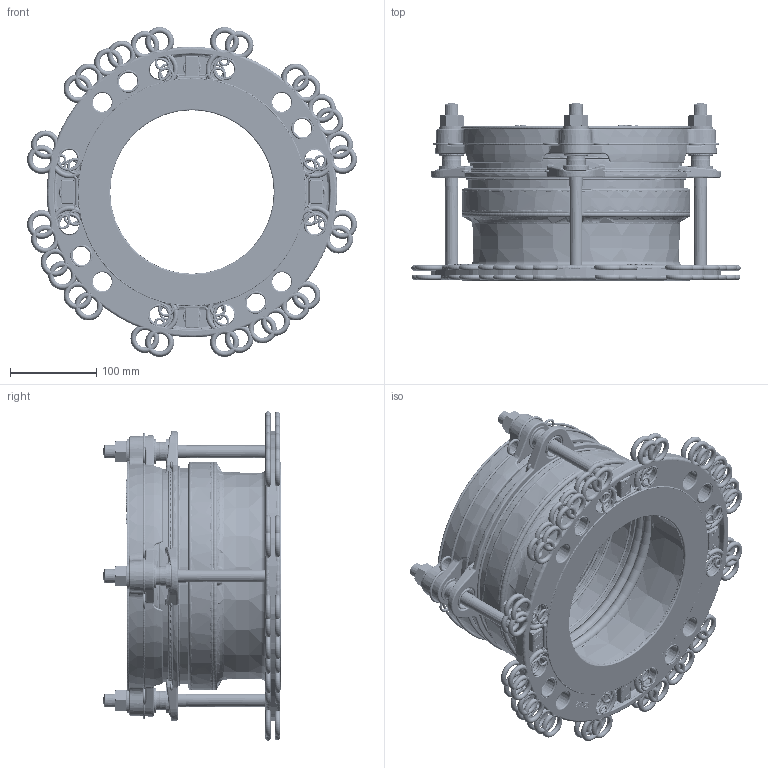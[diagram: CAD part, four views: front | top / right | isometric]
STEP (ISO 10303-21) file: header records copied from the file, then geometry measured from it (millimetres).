
FILE_DESCRIPTION((''),'2;1');
FILE_NAME('13383_10','2014-12-15T',('rburgess'),('Viking Johnson'),'PRO/ENGINEER BY PARAMETRIC TECHNOLOGY CORPORATION, 2006020','PRO/ENGINEER BY PARAMETRIC TECHNOLOGY CORPORATION, 2006020','');
FILE_SCHEMA(('CONFIG_CONTROL_DESIGN'));
Products named in the file (1): 13383_10
Bounding box: 383.36 x 206.63 x 383.36 mm (x, y, z)
Surface area: 2078041 mm2 (no closed solid volume)
Topology: 0 solids, 0 shells, 5153 faces, 27568 edges, 27072 vertices
Faces by surface type: bspline 4378, torus 687, sphere 88
Entity records: 384638 total; most frequent: CARTESIAN_POINT 142980, DIRECTION 38346, TRIMMED_CURVE 33903, VECTOR 31010, LINE 31010, DEFINITIONAL_REPRESENTATION 26560, PCURVE 26560, COMPOSITE_CURVE_SEGMENT 26560
